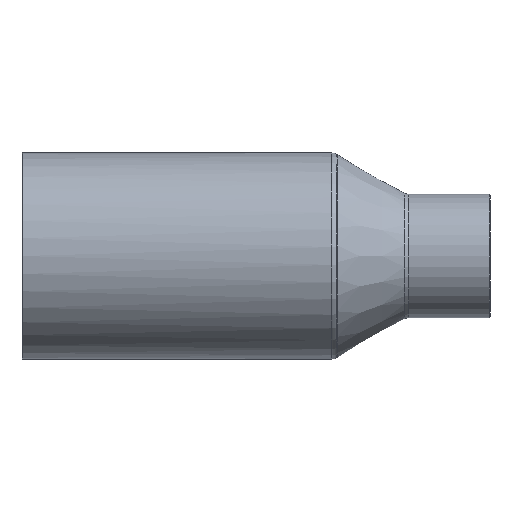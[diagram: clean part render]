
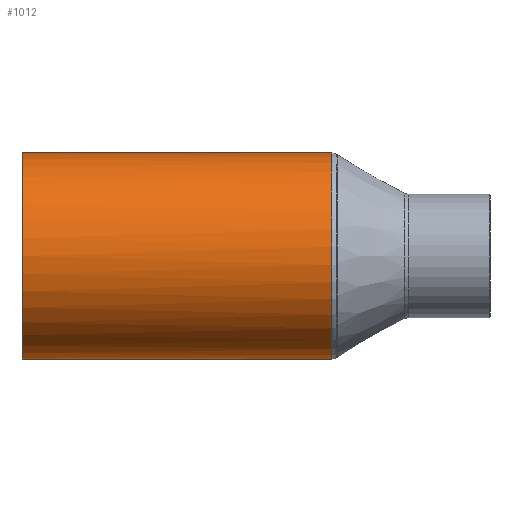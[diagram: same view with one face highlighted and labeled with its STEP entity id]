
A CAD part, front view. The second image highlights one B-rep face of the part: STEP entity #1012.
In plain terms, the highlighted cylindrical face has radius 23.45 mm (diameter 46.9 mm), a full revolution.
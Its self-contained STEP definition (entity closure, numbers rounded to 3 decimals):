
#283=CARTESIAN_POINT('',(22.845,18.83,-13.976));
#284=VERTEX_POINT('',#283);
#384=CARTESIAN_POINT('',(22.845,18.83,13.976));
#385=VERTEX_POINT('',#384);
#430=CARTESIAN_POINT('',(22.845,0.0,0.0));
#431=DIRECTION('',(1.0,0.0,0.0));
#432=DIRECTION('',(0.0,1.0,0.0));
#433=AXIS2_PLACEMENT_3D('',#430,#431,#432);
#434=CIRCLE('',#433,23.45);
#435=EDGE_CURVE('',#385,#284,#434,.T.);
#701=CARTESIAN_POINT('',(0.,0.0,-23.45));
#702=VERTEX_POINT('',#701);
#703=CARTESIAN_POINT('',(0.0,0.0,0.0));
#704=DIRECTION('',(-0.636,0.772,0.0));
#705=DIRECTION('',(0.772,0.636,0.0));
#706=AXIS2_PLACEMENT_3D('',#703,#704,#705);
#707=ELLIPSE('',#706,36.869,23.45);
#708=EDGE_CURVE('',#284,#702,#707,.T.);
#710=CARTESIAN_POINT('',(0.,0.0,23.45));
#711=VERTEX_POINT('',#710);
#719=CARTESIAN_POINT('',(0.0,0.0,0.0));
#720=DIRECTION('',(-0.636,0.772,0.0));
#721=DIRECTION('',(0.772,0.636,0.0));
#722=AXIS2_PLACEMENT_3D('',#719,#720,#721);
#723=ELLIPSE('',#722,36.869,23.45);
#724=EDGE_CURVE('',#711,#385,#723,.T.);
#960=CARTESIAN_POINT('',(-47.3,23.45,0.));
#961=VERTEX_POINT('',#960);
#962=CARTESIAN_POINT('',(-47.3,0.0,0.0));
#963=DIRECTION('',(-1.0,0.0,0.0));
#964=DIRECTION('',(0.0,-1.0,0.0));
#965=AXIS2_PLACEMENT_3D('',#962,#963,#964);
#966=CIRCLE('',#965,23.45);
#967=EDGE_CURVE('',#961,#961,#966,.T.);
#992=CARTESIAN_POINT('',(5.6,0.0,0.0));
#993=DIRECTION('',(1.0,0.0,0.0));
#994=DIRECTION('',(0.0,1.0,0.0));
#995=AXIS2_PLACEMENT_3D('',#992,#993,#994);
#996=CYLINDRICAL_SURFACE('',#995,23.45);
#997=ORIENTED_EDGE('',*,*,#435,.F.);
#998=ORIENTED_EDGE('',*,*,#724,.F.);
#999=CARTESIAN_POINT('',(0.0,0.0,0.0));
#1000=DIRECTION('',(0.636,0.772,0.0));
#1001=DIRECTION('',(-0.772,0.636,0.0));
#1002=AXIS2_PLACEMENT_3D('',#999,#1000,#1001);
#1003=ELLIPSE('',#1002,36.869,23.45);
#1004=EDGE_CURVE('',#702,#711,#1003,.T.);
#1005=ORIENTED_EDGE('',*,*,#1004,.F.);
#1006=ORIENTED_EDGE('',*,*,#708,.F.);
#1007=EDGE_LOOP('',(#997,#998,#1005,#1006));
#1008=FACE_OUTER_BOUND('',#1007,.T.);
#1009=ORIENTED_EDGE('',*,*,#967,.F.);
#1010=EDGE_LOOP('',(#1009));
#1011=FACE_BOUND('',#1010,.T.);
#1012=ADVANCED_FACE('',(#1008,#1011),#996,.T.);
